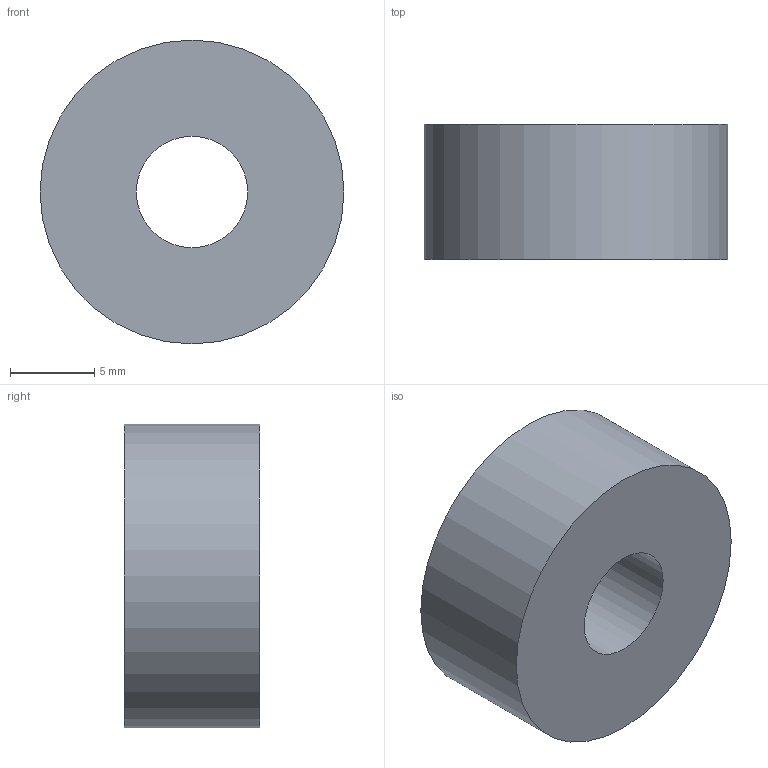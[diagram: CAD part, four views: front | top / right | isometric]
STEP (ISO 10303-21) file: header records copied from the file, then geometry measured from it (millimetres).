
FILE_DESCRIPTION(('Open CASCADE Model'),'2;1');
FILE_NAME('Open CASCADE Shape Model','2026-11-14T12:05:08',('Author'),( 'Open CASCADE'),'Open CASCADE STEP processor 8.0','Open CASCADE 8.0' ,'Unknown');
FILE_SCHEMA(('AUTOMOTIVE_DESIGN { 1 0 10303 214 1 1 1 1 }'));
Length unit declared in the file: millimetre
Products named in the file (1): Open CASCADE STEP translator 8.0 4
Bounding box: 18 x 8 x 18 mm (x, y, z)
Volume: 1762.1 mm3; surface area: 1058.8 mm2
Topology: 1 solids, 1 shells, 4 faces, 6 edges, 4 vertices
Faces by surface type: cylinder 2, plane 2
Full cylindrical faces by diameter (mm): 6.6 x1, 18 x1
Entity records: 186 total; most frequent: DIRECTION 32, CARTESIAN_POINT 27, ORIENTED_EDGE 12, PCURVE 12, DEFINITIONAL_REPRESENTATION 12, LINE 10, VECTOR 10, AXIS2_PLACEMENT_3D 9
